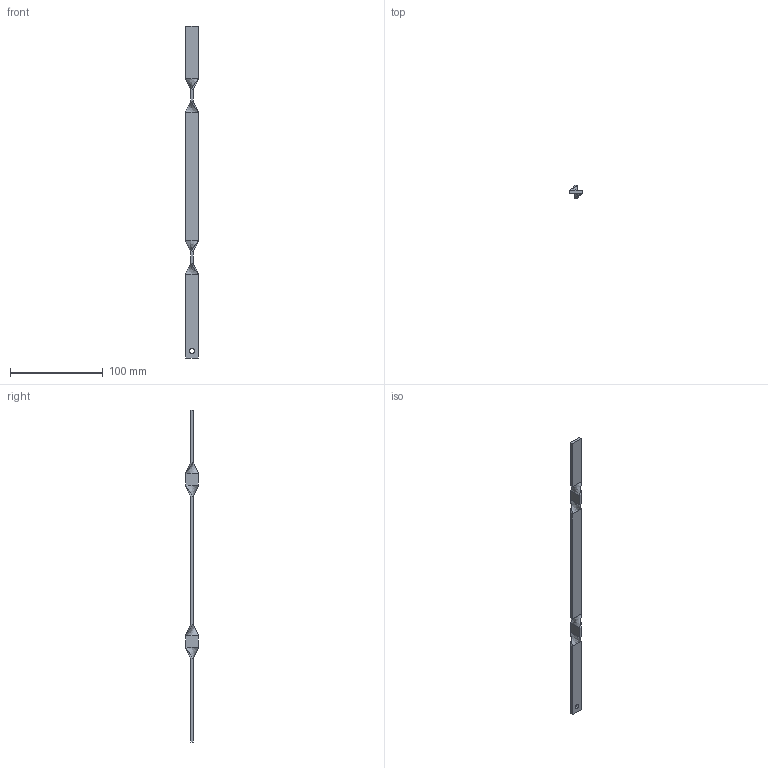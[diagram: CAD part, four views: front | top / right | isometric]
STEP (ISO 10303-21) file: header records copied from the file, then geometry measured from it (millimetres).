
FILE_DESCRIPTION (( 'STEP AP214' ), '1' );
FILE_NAME ('P190-351.STEP', '2012-10-24T09:11:29', ( 'lukasz' ), ( 'ATC' ), 'SwSTEP 2.0', 'SolidWorks 2010', '' );
FILE_SCHEMA (( 'AUTOMOTIVE_DESIGN' ));
Length unit declared in the file: millimetre
Products named in the file (1): P190-351
Bounding box: 14 x 14 x 358.5 mm (x, y, z)
Volume: 14313.7 mm3; surface area: 12079.9 mm2
Topology: 1 solids, 1 shells, 40 faces, 82 edges, 44 vertices
Faces by surface type: plane 22, bspline 16, cylinder 2
Entity records: 1292 total; most frequent: CARTESIAN_POINT 483, ORIENTED_EDGE 164, DIRECTION 132, EDGE_CURVE 82, LINE 74, VECTOR 74, VERTEX_POINT 44, EDGE_LOOP 42
